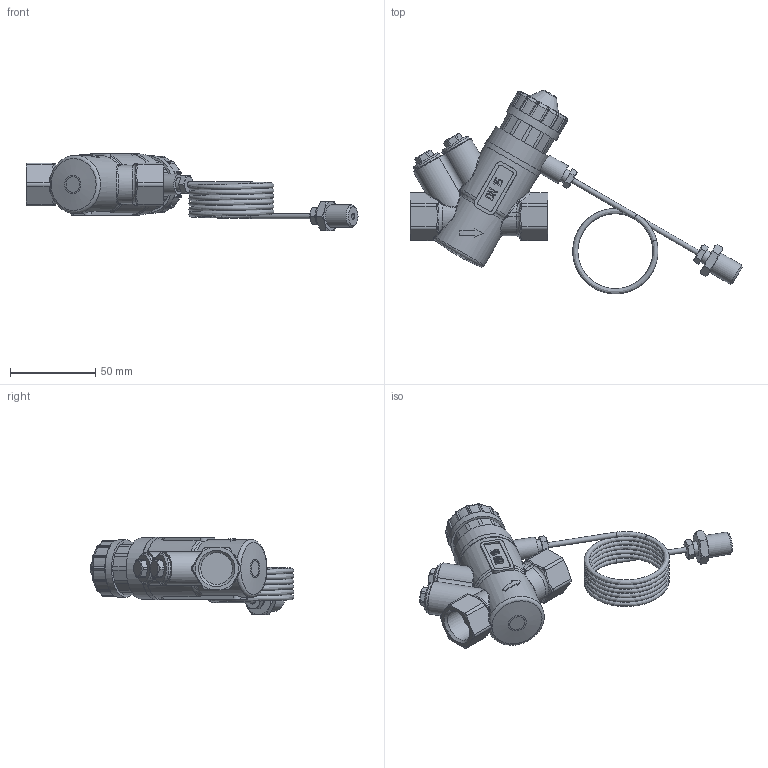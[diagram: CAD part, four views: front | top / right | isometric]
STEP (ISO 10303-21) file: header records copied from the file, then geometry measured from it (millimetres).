
FILE_DESCRIPTION(('STEP AP203'), '1');
FILE_NAME('VT.043.GA.0411', '', ('UNSPECIFIED'), ('UNSPECIFIED'), 'C3D Converter', 'C3D Toolkit', '');
FILE_SCHEMA(('CONFIG_CONTROL_DESIGN'));
Length unit declared in the file: millimetre
Products named in the file (1): ВР.493612.014.000 СБ
Bounding box: 194.89 x 119.51 x 45.4 mm (x, y, z)
Volume: 135840.5 mm3; surface area: 37848.9 mm2
Topology: 1 solids, 5 shells, 668 faces, 1624 edges, 993 vertices
Faces by surface type: plane 200, cylinder 185, bspline 136, cone 66, extrusion 53, torus 28
Full cylindrical faces by diameter (mm): 1.2 x2, 3 x3, 3.1 x1, 3.5 x1, 4.4 x1, 6.647 x1, 8 x2, 12 x1, 13.157 x1, 16.2 x2, 18 x2, 18.632 x2, 33.9 x1, 36 x1, 36.6 x1
Entity records: 39243 total; most frequent: CARTESIAN_POINT 25534, ORIENTED_EDGE 3146, DIRECTION 2245, EDGE_CURVE 1573, VERTEX_POINT 993, AXIS2_PLACEMENT_3D 826, EDGE_LOOP 746, B_SPLINE_CURVE_WITH_KNOTS 703
